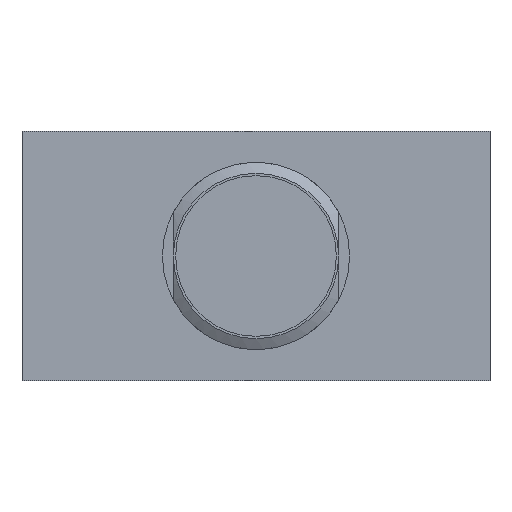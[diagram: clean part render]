
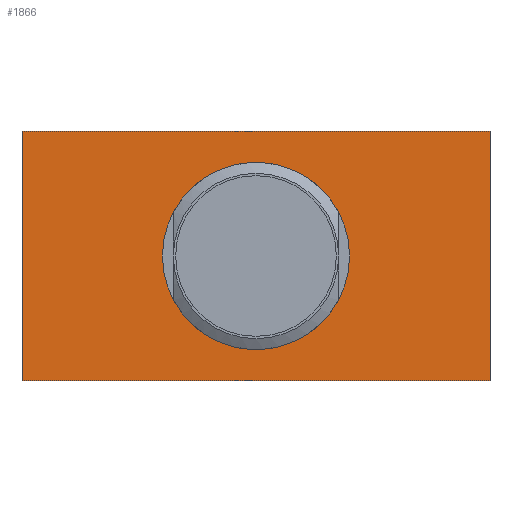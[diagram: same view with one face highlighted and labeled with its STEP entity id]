
A CAD part, front view. The second image highlights one B-rep face of the part: STEP entity #1866.
In plain terms, the highlighted planar face has unit normal (0, -1, 0) as drawn and (0, 0, -1) by its records, which use the part's own axes.
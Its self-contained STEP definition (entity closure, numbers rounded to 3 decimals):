
#231=FACE_OUTER_BOUND('',#342,.T.);
#342=EDGE_LOOP('',(#1196,#1197,#1198,#1199));
#467=LINE('',#2885,#606);
#468=LINE('',#2887,#607);
#469=LINE('',#2889,#608);
#470=LINE('',#2890,#609);
#606=VECTOR('',#2292,1.25);
#607=VECTOR('',#2293,30.);
#608=VECTOR('',#2294,16.);
#609=VECTOR('',#2295,30.);
#745=VERTEX_POINT('',#2883);
#746=VERTEX_POINT('',#2884);
#747=VERTEX_POINT('',#2886);
#748=VERTEX_POINT('',#2888);
#925=EDGE_CURVE('',#745,#746,#467,.T.);
#926=EDGE_CURVE('',#747,#745,#468,.T.);
#927=EDGE_CURVE('',#748,#747,#469,.T.);
#928=EDGE_CURVE('',#746,#748,#470,.T.);
#1196=ORIENTED_EDGE('',*,*,#925,.F.);
#1197=ORIENTED_EDGE('',*,*,#926,.F.);
#1198=ORIENTED_EDGE('',*,*,#927,.F.);
#1199=ORIENTED_EDGE('',*,*,#928,.F.);
#1738=PLANE('',#2059);
#1866=ADVANCED_FACE('',(#231),#1738,.T.);
#2059=AXIS2_PLACEMENT_3D('',#2882,#2290,#2291);
#2290=DIRECTION('center_axis',(0.,0.,-1.));
#2291=DIRECTION('ref_axis',(-1.,0.,0.));
#2292=DIRECTION('',(0.,1.,0.));
#2293=DIRECTION('',(1.,0.,0.));
#2294=DIRECTION('',(0.,-1.,0.));
#2295=DIRECTION('',(-1.,0.,0.));
#2882=CARTESIAN_POINT('Origin',(15.,-2.2,-43.));
#2883=CARTESIAN_POINT('',(15.,-16.,-43.));
#2884=CARTESIAN_POINT('',(15.,0.,-43.));
#2885=CARTESIAN_POINT('',(15.,-1.25,-43.));
#2886=CARTESIAN_POINT('',(-15.,-16.,-43.));
#2887=CARTESIAN_POINT('',(-15.,-16.,-43.));
#2888=CARTESIAN_POINT('',(-15.,0.,-43.));
#2889=CARTESIAN_POINT('',(-15.,0.,-43.));
#2890=CARTESIAN_POINT('',(15.,0.,-43.));
